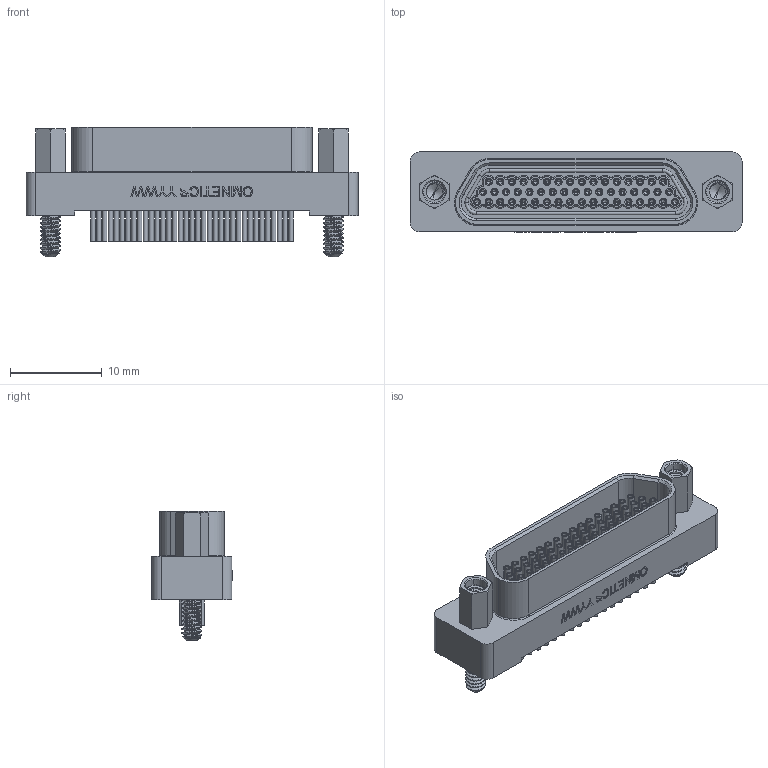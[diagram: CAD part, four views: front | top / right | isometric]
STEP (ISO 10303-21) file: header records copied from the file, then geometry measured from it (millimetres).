
FILE_DESCRIPTION (( 'STEP AP214' ), '1' );
FILE_NAME ('A99521-513 REV A.STEP', '2012-11-08T20:37:01', ( '' ), ( '' ), 'SwSTEP 2.0', 'SolidWorks 2012', '' );
FILE_SCHEMA (( 'AUTOMOTIVE_DESIGN' ));
Length unit declared in the file: inch
Products named in the file (1): A99521-513 (REV A)
Bounding box: 36.2 x 8.72 x 14.16 mm (x, y, z)
Volume: 1699.7 mm3; surface area: 3839.4 mm2
Topology: 1 solids, 5 shells, 1360 faces, 3281 edges, 2052 vertices
Faces by surface type: cylinder 658, plane 364, cone 167, torus 87, bspline 84
Entity records: 57809 total; most frequent: CARTESIAN_POINT 26438, DIRECTION 6595, ORIENTED_EDGE 6350, EDGE_CURVE 3175, AXIS2_PLACEMENT_3D 2649, VERTEX_POINT 2052, EDGE_LOOP 1599, CIRCLE 1372
